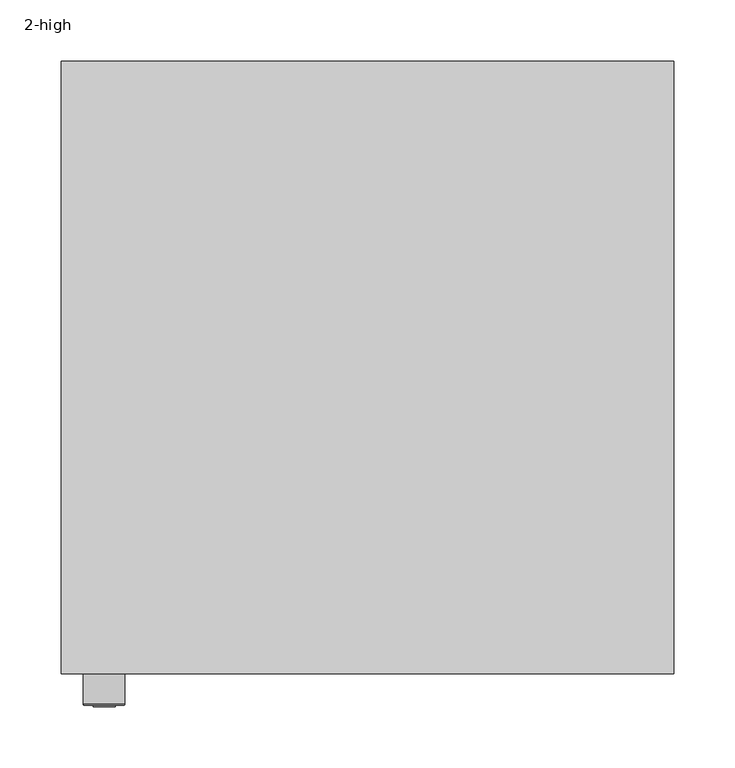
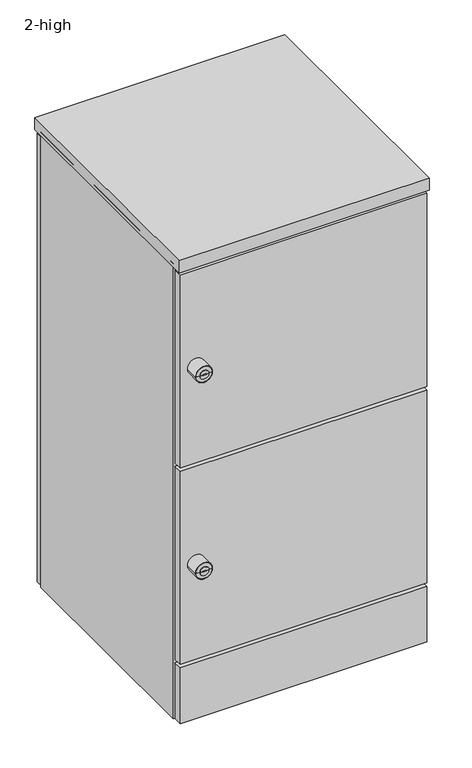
"""IFC4 building model written with IfcOpenShell, lengths in millimetres: furniture geometry, Furniture_Storage_Spacestor_SignatureHotLocker : 2-high."""

from ifc_helpers import new_model, si_unit, point, frame, origin, origin_with_axes, place, context, project, spatial, polyline, circle_curve, ellipse_curve, trimmed, outline, extrude, source, transform, mapped, element, save
from ifc_brep_helpers import plane_surface, cylinder_surface, revolved_surface, advanced_brep


def furniture_2_high_d0233c43(model_context):
    return source(origin(), model_context, "Body", "SolidModel", [
        extrude(outline(polyline([(489.0, 0.0), (11.0, 0.0), (11.0, 459.0), (489.0, 459.0), (489.0, 0.0)])), frame((0.0, 0.0, 942.5), z_axis=(0.0, 0.0, 1.0), x_axis=(1.0, 0.0, 0.0)), (0.0, 0.0, 1.0), 22.0),
        extrude(outline(polyline([(489.0, 0.0), (11.0, 0.0), (11.0, 459.0), (489.0, 459.0), (489.0, 0.0)])), frame((0.0, 0.0, 526.5), z_axis=(0.0, 0.0, 1.0), x_axis=(1.0, 0.0, 0.0)), (0.0, 0.0, 1.0), 22.0),
        advanced_brep(
        [(18.0, -45.3116344, 745.5), (52.0, -45.3116344, 745.5), (52.0, -18.0, 745.5), (18.0, -18.0, 745.5), (35.0, -18.0, 745.5), (26.0252681, -46.3150077, 745.5), (43.9747319, -46.3150077, 745.5), (50.9966266, -46.3150077, 745.5), (19.0033734, -46.3150077, 745.5), (26.0252681, -47.4703043, 745.5), (43.9747319, -47.4703043, 745.5), (30.1754848, -47.4703043, 745.5), (30.1754848, -47.4703043, 746.8633438), (39.8245152, -47.4703043, 746.8633438), (39.8245152, -47.4703043, 745.5), (39.8245152, -47.4703043, 744.1366562), (30.1754848, -47.4703043, 744.1366562), (39.8245152, -27.8604291, 746.8633438), (30.1754848, -27.8604291, 746.8633438), (30.1754848, -27.8604291, 744.1366562), (39.8245152, -27.8604291, 744.1366562)],
        [
            (0, 1, circle_curve(frame((35.0, -45.3116344, 745.5), z_axis=(0.0, 1.0, 0.0), x_axis=(1.0, 0.0, 0.0)), 17.0)),
            (1, 2),
            (2, 3, circle_curve(frame((35.0, -18.0, 745.5), z_axis=(0.0, -1.0, 0.0), x_axis=(1.0, 0.0, 0.0)), 17.0)),
            (3, 0),
            (1, 0, circle_curve(frame((35.0, -45.3116344, 745.5), z_axis=(0.0, 1.0, 0.0), x_axis=(1.0, 0.0, 0.0)), 17.0)),
            (3, 2, circle_curve(frame((35.0, -18.0, 745.5), z_axis=(0.0, -1.0, 0.0), x_axis=(1.0, 0.0, 0.0)), 17.0)),
            (2, 4),
            (4, 3),
            (5, 6, circle_curve(frame((35.0, -46.3150077, 745.5), z_axis=(0.0, 1.0, 0.0), x_axis=(1.0, 0.0, 0.0)), 8.9747319)),
            (6, 7),
            (7, 8, circle_curve(frame((35.0, -46.3150077, 745.5), z_axis=(0.0, -1.0, 0.0), x_axis=(1.0, 0.0, 0.0)), 15.9966266)),
            (8, 5),
            (6, 5, circle_curve(frame((35.0, -46.3150077, 745.5), z_axis=(0.0, 1.0, 0.0), x_axis=(1.0, 0.0, 0.0)), 8.9747319)),
            (8, 7, circle_curve(frame((35.0, -46.3150077, 745.5), z_axis=(0.0, -1.0, 0.0), x_axis=(1.0, 0.0, 0.0)), 15.9966266)),
            (0, 8, circle_curve(frame((19.0033734, -45.3116344, 745.5), z_axis=(0.0, 0.0, 1.0), x_axis=(-1.0, 0.0, 0.0)), 1.0033734)),
            (7, 1, circle_curve(frame((50.9966266, -45.3116344, 745.5), z_axis=(0.0, 0.0, 1.0), x_axis=(1.0, 0.0, 0.0)), 1.0033734)),
            (5, 9),
            (9, 10, circle_curve(frame((35.0, -47.4703043, 745.5), z_axis=(0.0, 1.0, 0.0), x_axis=(1.0, 0.0, 0.0)), 8.9747319)),
            (10, 6),
            (10, 9, circle_curve(frame((35.0, -47.4703043, 745.5), z_axis=(0.0, 1.0, 0.0), x_axis=(1.0, 0.0, 0.0)), 8.9747319)),
            (9, 11),
            (11, 12),
            (12, 13),
            (13, 14),
            (14, 10),
            (14, 15),
            (15, 16),
            (16, 11),
            (17, 18),
            (18, 19),
            (19, 20),
            (20, 17),
            (17, 13),
            (12, 18),
            (16, 19),
            (15, 20),
        ],
        [
            cylinder_surface(frame((35.0, -2627.0581012, 745.5), z_axis=(0.0, -1.0, 0.0), x_axis=(1.0, 0.0, 0.0)), 17.0),
            plane_surface(frame((35.0, -18.0, 745.5), z_axis=(0.0, 1.0, 0.0), x_axis=(1.0, 0.0, 0.0))),
            plane_surface(frame((35.0, -46.3150077, 745.5), z_axis=(0.0, -1.0, 0.0), x_axis=(1.0, 0.0, 0.0))),
            revolved_surface(trimmed(ellipse_curve(frame((50.9966266, -45.3116344, 745.5), z_axis=(0.0, 0.0, -1.0), x_axis=(1.0, 0.0, 0.0)), 1.0033734, 1.0033734), [point((52.0, -45.3116344, 745.5))], [point((50.9966266, -46.3150077, 745.5))], True, "CARTESIAN"), (35.0, -2627.0581012, 745.5), (0.0, -1.0, 0.0)),
            cylinder_surface(frame((35.0, -2627.0581012, 745.5), z_axis=(0.0, -1.0, 0.0), x_axis=(1.0, 0.0, 0.0)), 8.9747319),
            plane_surface(frame((35.0, -47.4703043, 745.5), z_axis=(0.0, -1.0, 0.0), x_axis=(1.0, 0.0, 0.0))),
            plane_surface(frame((30.5434751, -27.8604291, 746.8633438), z_axis=(0.0, -1.0, 0.0), x_axis=(1.0, 0.0, 0.0))),
            plane_surface(frame((39.8245152, -49.2046383, 746.8633438), z_axis=(0.0, 0.0, -1.0), x_axis=(0.0, 1.0, 0.0))),
            plane_surface(frame((30.1754848, -49.2046383, 746.8633438), z_axis=(1.0, 0.0, 0.0), x_axis=(0.0, 1.0, 0.0))),
            plane_surface(frame((30.1754848, -49.2046383, 744.1366562), z_axis=(0.0, 0.0, 1.0), x_axis=(0.0, 1.0, 0.0))),
            plane_surface(frame((39.8245152, -49.2046383, 744.1366562), z_axis=(-1.0, 0.0, 0.0), x_axis=(0.0, 1.0, 0.0))),
        ],
        [
            (0, [[1, 2, 3, 4]]),
            (0, [[-2, 5, -4, 6]]),
            (1, [[-3, 7, 8]]),
            (1, [[-6, -8, -7]]),
            (2, [[9, 10, 11, 12]]),
            (2, [[-10, 13, -12, 14]]),
            (3, [[-1, 15, -11, 16]]),
            (3, [[-5, -16, -14, -15]]),
            (4, [[-9, 17, 18, 19]]),
            (4, [[-13, -19, 20, -17]]),
            (5, [[-18, 21, 22, 23, 24, 25]]),
            (5, [[-20, -25, 26, 27, 28, -21]]),
            (6, [[29, 30, 31, 32]]),
            (7, [[-29, 33, -23, 34]]),
            (8, [[-30, -34, -22, -28, 35]]),
            (9, [[-31, -35, -27, 36]]),
            (10, [[-32, -36, -26, -24, -33]]),
        ],
    ),
        advanced_brep(
        [(18.0, -45.3116344, 329.5), (52.0, -45.3116344, 329.5), (52.0, -18.0, 329.5), (18.0, -18.0, 329.5), (35.0, -18.0, 329.5), (26.0252681, -46.3150077, 329.5), (43.9747319, -46.3150077, 329.5), (50.9966266, -46.3150077, 329.5), (19.0033734, -46.3150077, 329.5), (26.0252681, -47.4703043, 329.5), (43.9747319, -47.4703043, 329.5), (30.1754848, -47.4703043, 329.5), (30.1754848, -47.4703043, 330.8633438), (39.8245152, -47.4703043, 330.8633438), (39.8245152, -47.4703043, 329.5), (39.8245152, -47.4703043, 328.1366562), (30.1754848, -47.4703043, 328.1366562), (39.8245152, -27.8604291, 330.8633438), (30.1754848, -27.8604291, 330.8633438), (30.1754848, -27.8604291, 328.1366562), (39.8245152, -27.8604291, 328.1366562)],
        [
            (0, 1, circle_curve(frame((35.0, -45.3116344, 329.5), z_axis=(0.0, 1.0, 0.0), x_axis=(1.0, 0.0, 0.0)), 17.0)),
            (1, 2),
            (2, 3, circle_curve(frame((35.0, -18.0, 329.5), z_axis=(0.0, -1.0, 0.0), x_axis=(1.0, 0.0, 0.0)), 17.0)),
            (3, 0),
            (1, 0, circle_curve(frame((35.0, -45.3116344, 329.5), z_axis=(0.0, 1.0, 0.0), x_axis=(1.0, 0.0, 0.0)), 17.0)),
            (3, 2, circle_curve(frame((35.0, -18.0, 329.5), z_axis=(0.0, -1.0, 0.0), x_axis=(1.0, 0.0, 0.0)), 17.0)),
            (2, 4),
            (4, 3),
            (5, 6, circle_curve(frame((35.0, -46.3150077, 329.5), z_axis=(0.0, 1.0, 0.0), x_axis=(1.0, 0.0, 0.0)), 8.9747319)),
            (6, 7),
            (7, 8, circle_curve(frame((35.0, -46.3150077, 329.5), z_axis=(0.0, -1.0, 0.0), x_axis=(1.0, 0.0, 0.0)), 15.9966266)),
            (8, 5),
            (6, 5, circle_curve(frame((35.0, -46.3150077, 329.5), z_axis=(0.0, 1.0, 0.0), x_axis=(1.0, 0.0, 0.0)), 8.9747319)),
            (8, 7, circle_curve(frame((35.0, -46.3150077, 329.5), z_axis=(0.0, -1.0, 0.0), x_axis=(1.0, 0.0, 0.0)), 15.9966266)),
            (0, 8, circle_curve(frame((19.0033734, -45.3116344, 329.5), z_axis=(0.0, 0.0, 1.0), x_axis=(-1.0, 0.0, 0.0)), 1.0033734)),
            (7, 1, circle_curve(frame((50.9966266, -45.3116344, 329.5), z_axis=(0.0, 0.0, 1.0), x_axis=(1.0, 0.0, 0.0)), 1.0033734)),
            (5, 9),
            (9, 10, circle_curve(frame((35.0, -47.4703043, 329.5), z_axis=(0.0, 1.0, 0.0), x_axis=(1.0, 0.0, 0.0)), 8.9747319)),
            (10, 6),
            (10, 9, circle_curve(frame((35.0, -47.4703043, 329.5), z_axis=(0.0, 1.0, 0.0), x_axis=(1.0, 0.0, 0.0)), 8.9747319)),
            (9, 11),
            (11, 12),
            (12, 13),
            (13, 14),
            (14, 10),
            (14, 15),
            (15, 16),
            (16, 11),
            (17, 18),
            (18, 19),
            (19, 20),
            (20, 17),
            (17, 13),
            (12, 18),
            (16, 19),
            (15, 20),
        ],
        [
            cylinder_surface(frame((35.0, -2627.0581012, 329.5), z_axis=(0.0, -1.0, 0.0), x_axis=(1.0, 0.0, 0.0)), 17.0),
            plane_surface(frame((35.0, -18.0, 329.5), z_axis=(0.0, 1.0, 0.0), x_axis=(1.0, 0.0, 0.0))),
            plane_surface(frame((35.0, -46.3150077, 329.5), z_axis=(0.0, -1.0, 0.0), x_axis=(1.0, 0.0, 0.0))),
            revolved_surface(trimmed(ellipse_curve(frame((50.9966266, -45.3116344, 329.5), z_axis=(0.0, 0.0, -1.0), x_axis=(1.0, 0.0, 0.0)), 1.0033734, 1.0033734), [point((52.0, -45.3116344, 329.5))], [point((50.9966266, -46.3150077, 329.5))], True, "CARTESIAN"), (35.0, -2627.0581012, 329.5), (0.0, -1.0, 0.0)),
            cylinder_surface(frame((35.0, -2627.0581012, 329.5), z_axis=(0.0, -1.0, 0.0), x_axis=(1.0, 0.0, 0.0)), 8.9747319),
            plane_surface(frame((35.0, -47.4703043, 329.5), z_axis=(0.0, -1.0, 0.0), x_axis=(1.0, 0.0, 0.0))),
            plane_surface(frame((30.5434751, -27.8604291, 330.8633438), z_axis=(0.0, -1.0, 0.0), x_axis=(1.0, 0.0, 0.0))),
            plane_surface(frame((39.8245152, -49.2046383, 330.8633438), z_axis=(0.0, 0.0, -1.0), x_axis=(0.0, 1.0, 0.0))),
            plane_surface(frame((30.1754848, -49.2046383, 330.8633438), z_axis=(1.0, 0.0, 0.0), x_axis=(0.0, 1.0, 0.0))),
            plane_surface(frame((30.1754848, -49.2046383, 328.1366562), z_axis=(0.0, 0.0, 1.0), x_axis=(0.0, 1.0, 0.0))),
            plane_surface(frame((39.8245152, -49.2046383, 328.1366562), z_axis=(-1.0, 0.0, 0.0), x_axis=(0.0, 1.0, 0.0))),
        ],
        [
            (0, [[1, 2, 3, 4]]),
            (0, [[-2, 5, -4, 6]]),
            (1, [[-3, 7, 8]]),
            (1, [[-6, -8, -7]]),
            (2, [[9, 10, 11, 12]]),
            (2, [[-10, 13, -12, 14]]),
            (3, [[-1, 15, -11, 16]]),
            (3, [[-5, -16, -14, -15]]),
            (4, [[-9, 17, 18, 19]]),
            (4, [[-13, -19, 20, -17]]),
            (5, [[-18, 21, 22, 23, 24, 25]]),
            (5, [[-20, -25, 26, 27, 28, -21]]),
            (6, [[29, 30, 31, 32]]),
            (7, [[-29, 33, -23, 34]]),
            (8, [[-30, -34, -22, -28, 35]]),
            (9, [[-31, -35, -27, 36]]),
            (10, [[-32, -36, -26, -24, -33]]),
        ],
    ),
        extrude(outline(polyline([(496.5, -18.0), (3.5, -18.0), (3.5, 0.0), (496.5, 0.0), (496.5, -18.0)])), frame((0.0, 0.0, 541.0), z_axis=(0.0, 0.0, 1.0), x_axis=(1.0, 0.0, 0.0)), (0.0, 0.0, 1.0), 409.0),
        extrude(outline(polyline([(496.5, -18.0), (3.5, -18.0), (3.5, 0.0), (496.5, 0.0), (496.5, -18.0)])), frame((0.0, 0.0, 125.0), z_axis=(0.0, 0.0, 1.0), x_axis=(1.0, 0.0, 0.0)), (0.0, 0.0, 1.0), 409.0),
        extrude(outline(polyline([(489.0, 0.0), (11.0, 0.0), (11.0, 459.0), (489.0, 459.0), (489.0, 0.0)])), frame((0.0, 0.0, 110.5), z_axis=(0.0, 0.0, 1.0), x_axis=(1.0, 0.0, 0.0)), (0.0, 0.0, 1.0), 22.0),
        extrude(outline(polyline([(496.5, 459.0), (3.5, 459.0), (3.5, 477.0), (496.5, 477.0), (496.5, 459.0)])), origin_with_axes(), (0.0, 0.0, 1.0), 950.0),
        extrude(outline(polyline([(496.5, -18.0), (3.5, -18.0), (3.5, 0.0), (496.5, 0.0), (496.5, -18.0)])), origin_with_axes(), (0.0, 0.0, 1.0), 118.0),
        extrude(outline(polyline([(500.0, -20.5), (0.0, -20.5), (0.0, 479.5), (500.0, 479.5), (500.0, -20.5)])), frame((0.0, 0.0, 957.0), z_axis=(0.0, 0.0, 1.0), x_axis=(1.0, 0.0, 0.0)), (0.0, 0.0, 1.0), 25.5),
        extrude(outline(polyline([(500.0, 0.0), (489.0, 0.0), (489.0, 459.0), (500.0, 459.0), (500.0, 0.0)])), origin_with_axes(), (0.0, 0.0, 1.0), 964.5),
        extrude(outline(polyline([(11.0, 0.0), (0.0, 0.0), (0.0, 459.0), (11.0, 459.0), (11.0, 0.0)])), origin_with_axes(), (0.0, 0.0, 1.0), 964.5),
    ])


if __name__ == "__main__":
    model = new_model("IFC4")
    model_context = context("Model", 3, world=origin())
    ifc_project = project(units=[si_unit("LENGTHUNIT", "METRE", prefix="MILLI")], contexts=[model_context])
    site = spatial("IfcSite", under=ifc_project)
    building = spatial("IfcBuilding", under=site)
    placement = place(None, origin())
    furniture_2_high_shape = furniture_2_high_d0233c43(model_context)
    element("IfcFurniture", 1, ObjectType="Furniture_Storage_Spacestor_SignatureHotLocker : 2-high", at=placement, inside=building, context=model_context, shape_type="MappedRepresentation", body=[
        mapped(furniture_2_high_shape, transform((0.0, 0.0, 0.0), x_axis=(1.0, 0.0, 0.0), y_axis=(0.0, 1.0, 0.0), z_axis=(0.0, 0.0, 1.0))),
    ])
    save(model, "model.ifc")
